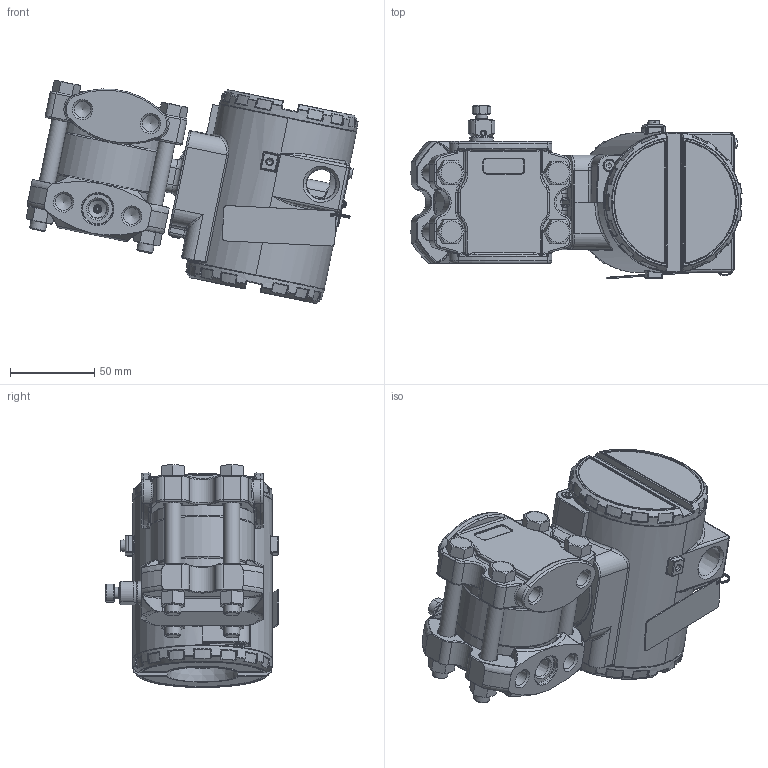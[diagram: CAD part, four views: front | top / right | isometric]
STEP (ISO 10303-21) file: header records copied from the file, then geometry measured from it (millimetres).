
FILE_DESCRIPTION(/* description */ (''),/* implementation_level */ '2;1');
FILE_NAME(/* name */ 'F:\Area\Desenvolvimento_2\Projects\Sensor\projetos\LD30X\montagens 3d - clientes\LD30XM4 1-4NPT Monel purga oposta.stp',/* time_stamp */ '2023-02-06T16:53:54-03:00',/* author */ ('inventor02'),/* organization */ (''),/* preprocessor_version */ 'ST-DEVELOPER v17',/* originating_system */ 'Autodesk Inventor 2019',/* authorisation */ '');
FILE_SCHEMA (('CONFIG_CONTROL_DESIGN'));
Length unit declared in the file: millimetre
Products named in the file (30): LD30XM4 1-4NPT Monel purga oposta; manometrico FX4 monel purga oposta; involucro fx4 apos a usinagem final; 101-C-0040-05 monel barra 7-16; 096-C-0014-13 manom reforçado; Paraf. 3-8 x 16 UNC; Porca 3-8 x 16 UNC; 075-B-0046-purgador; Sangria; carcaça vazia com tampas e plaqueta; carcaça LD inox sem letras; Subconjunto plaqueta 300; Plaqueta transmissor; Parafuso da Plaqueta; Rebite da Plaqueta; 096-A-0169-03; 101-A-0502-01; Chapa aterramento externo; ISO 1207 - M4 x 8; DIN 915 - M6 x 10; ANSI B18.3.1M - M4x0,7 x 8; Subconjunto tampa com visor aluminio; tampa pintada; VIDRO DO VISOR; oring 41x1 vidro tampa; Trava do vidro da tampa com visor; trava do vidro VH256; Subconjunto tampa sem visor-aluminio; tampa cega 300 pintada p0; 00034775-0
Assembly tree (37 placements, depth 4):
  LD30XM4 1-4NPT Monel purga oposta
    manometrico FX4 monel purga oposta
      involucro fx4 apos a usinagem final
      101-C-0040-05 monel barra 7-16
      096-C-0014-13 manom reforçado
      Paraf. 3-8 x 16 UNC  x4
      Porca 3-8 x 16 UNC  x4
      075-B-0046-purgador
      Sangria
    carcaça vazia com tampas e plaqueta
      carcaça LD inox sem letras
      Subconjunto plaqueta 300
        Plaqueta transmissor
        Parafuso da Plaqueta
        Rebite da Plaqueta
        096-A-0169-03
        101-A-0502-01
      Chapa aterramento externo
      ISO 1207 - M4 x 8
      DIN 915 - M6 x 10
      ANSI B18.3.1M - M4x0,7 x 8  x2
      Subconjunto tampa com visor aluminio
        tampa pintada
        VIDRO DO VISOR
        oring 41x1 vidro tampa
        Trava do vidro da tampa com visor
        trava do vidro VH256
        00034775-0
      Subconjunto tampa sem visor-aluminio
        tampa cega 300 pintada p0
        00034775-0
Bounding box: 197.26 x 103.1 x 132.43 mm (x, y, z)
Volume: 612363 mm3; surface area: 231719.6 mm2
Topology: 32 solids, 32 shells, 2320 faces, 5624 edges, 3335 vertices
Faces by surface type: bspline 587, cylinder 547, plane 456, torus 393, cone 230, sphere 107
Full cylindrical faces by diameter (mm): 2 x2, 2.1 x2, 2.459 x5, 2.642 x1, 2.7 x1, 3 x3, 3.242 x4, 3.5 x4, 3.571 x1, 4 x4, 4.3 x1, 4.4 x1, 4.917 x1, 5 x2, 5.5 x1, 6 x2, 6.8 x1, 7 x5, 7.087 x2, 7.6 x2, 7.798 x4, 8 x1, 8.7 x2, 9.525 x4, 9.728 x8, 10.5 x8, 10.719 x2, 12 x1, 13.8 x1, 14 x1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
Entity records: 82911 total; most frequent: CARTESIAN_POINT 32094, ORIENTED_EDGE 10658, DIRECTION 10232, EDGE_CURVE 5329, AXIS2_PLACEMENT_3D 4495, VERTEX_POINT 3201, CIRCLE 2665, EDGE_LOOP 2338
